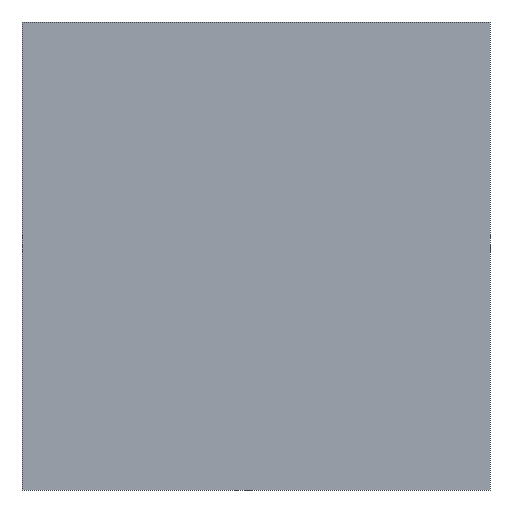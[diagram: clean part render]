
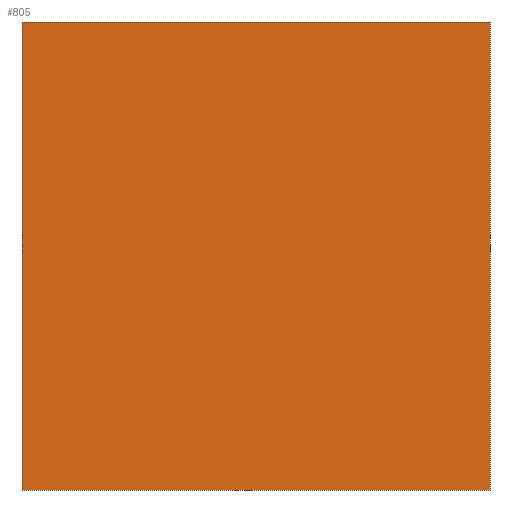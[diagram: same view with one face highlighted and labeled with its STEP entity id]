
A CAD part, front view. The second image highlights one B-rep face of the part: STEP entity #805.
In plain terms, the highlighted planar face has unit normal (0, -1, 0).
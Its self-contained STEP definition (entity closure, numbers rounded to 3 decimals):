
#146=DIRECTION('',(-1.,0.,0.));
#147=VECTOR('',#146,40.);
#148=CARTESIAN_POINT('',(20.,0.,-20.));
#149=LINE('',#148,#147);
#150=DIRECTION('',(0.,0.,1.));
#151=VECTOR('',#150,40.);
#152=CARTESIAN_POINT('',(-20.,0.,-20.));
#153=LINE('',#152,#151);
#154=DIRECTION('',(1.,0.,0.));
#155=VECTOR('',#154,40.);
#156=CARTESIAN_POINT('',(-20.,0.,20.));
#157=LINE('',#156,#155);
#158=DIRECTION('',(0.,0.,-1.));
#159=VECTOR('',#158,40.);
#160=CARTESIAN_POINT('',(20.,0.,20.));
#161=LINE('',#160,#159);
#638=CARTESIAN_POINT('',(20.,0.,-20.));
#639=CARTESIAN_POINT('',(-20.,0.,-20.));
#640=VERTEX_POINT('',#638);
#641=VERTEX_POINT('',#639);
#642=CARTESIAN_POINT('',(-20.,0.,20.));
#643=VERTEX_POINT('',#642);
#644=CARTESIAN_POINT('',(20.,0.,20.));
#645=VERTEX_POINT('',#644);
#790=CARTESIAN_POINT('',(0.,0.,0.));
#791=DIRECTION('',(0.,1.,0.));
#792=DIRECTION('',(1.,0.,0.));
#793=AXIS2_PLACEMENT_3D('',#790,#791,#792);
#794=PLANE('',#793);
#796=ORIENTED_EDGE('',*,*,#795,.T.);
#798=ORIENTED_EDGE('',*,*,#797,.T.);
#800=ORIENTED_EDGE('',*,*,#799,.T.);
#802=ORIENTED_EDGE('',*,*,#801,.T.);
#803=EDGE_LOOP('',(#796,#798,#800,#802));
#804=FACE_OUTER_BOUND('',#803,.F.);
#795=EDGE_CURVE('',#640,#641,#149,.T.);
#797=EDGE_CURVE('',#641,#643,#153,.T.);
#799=EDGE_CURVE('',#643,#645,#157,.T.);
#801=EDGE_CURVE('',#645,#640,#161,.T.);
#805=ADVANCED_FACE('',(#804),#794,.F.);
